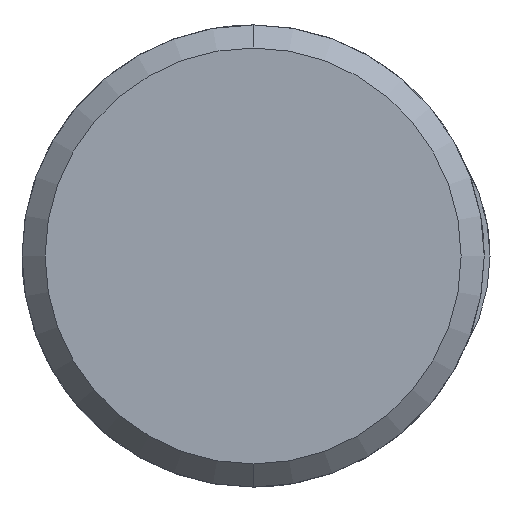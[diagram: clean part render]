
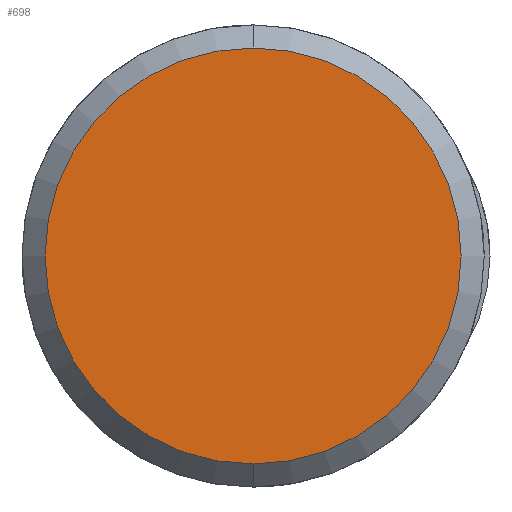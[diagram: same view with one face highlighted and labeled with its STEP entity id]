
A CAD part, left-side view. The second image highlights one B-rep face of the part: STEP entity #698.
In plain terms, the highlighted planar face has unit normal (-1, 0, 0).
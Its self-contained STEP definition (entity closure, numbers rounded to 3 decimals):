
#630=CARTESIAN_POINT('Vertex',(0.,0.,-36.)) ;
#633=CARTESIAN_POINT('Axis2P3D Location',(0.,0.,0.)) ;
#637=CARTESIAN_POINT('Vertex',(0.,36.,0.)) ;
#640=CARTESIAN_POINT('Axis2P3D Location',(0.,0.,0.)) ;
#644=CARTESIAN_POINT('Vertex',(0.,0.,36.)) ;
#666=CARTESIAN_POINT('Axis2P3D Location',(0.,0.,0.)) ;
#670=CARTESIAN_POINT('Vertex',(0.,-36.,0.)) ;
#673=CARTESIAN_POINT('Axis2P3D Location',(0.,0.,0.)) ;
#687=CARTESIAN_POINT('Axis2P3D Location',(0.,0.,0.)) ;
#634=DIRECTION('Axis2P3D Direction',(1.,0.,-0.)) ;
#641=DIRECTION('Axis2P3D Direction',(1.,0.,-0.)) ;
#667=DIRECTION('Axis2P3D Direction',(1.,0.,-0.)) ;
#674=DIRECTION('Axis2P3D Direction',(1.,0.,-0.)) ;
#688=DIRECTION('Axis2P3D Direction',(1.,0.,-0.)) ;
#689=DIRECTION('Axis2P3D XDirection',(-0.,0.,-1.)) ;
#635=AXIS2_PLACEMENT_3D('Circle Axis2P3D',#633,#634,$) ;
#642=AXIS2_PLACEMENT_3D('Circle Axis2P3D',#640,#641,$) ;
#668=AXIS2_PLACEMENT_3D('Circle Axis2P3D',#666,#667,$) ;
#675=AXIS2_PLACEMENT_3D('Circle Axis2P3D',#673,#674,$) ;
#690=AXIS2_PLACEMENT_3D('Plane Axis2P3D',#687,#688,#689) ;
#693=ORIENTED_EDGE('',*,*,#639,.F.) ;
#694=ORIENTED_EDGE('',*,*,#677,.F.) ;
#695=ORIENTED_EDGE('',*,*,#672,.F.) ;
#696=ORIENTED_EDGE('',*,*,#646,.F.) ;
#698=ADVANCED_FACE('395C-063-265/1',(#697),#691,.F.) ;
#636=CIRCLE('generated circle',#635,36.) ;
#643=CIRCLE('generated circle',#642,36.) ;
#669=CIRCLE('generated circle',#668,36.) ;
#676=CIRCLE('generated circle',#675,36.) ;
#639=EDGE_CURVE('',#631,#638,#636,.T.) ;
#646=EDGE_CURVE('',#638,#645,#643,.T.) ;
#672=EDGE_CURVE('',#645,#671,#669,.T.) ;
#677=EDGE_CURVE('',#671,#631,#676,.T.) ;
#692=EDGE_LOOP('',(#693,#694,#695,#696)) ;
#697=FACE_OUTER_BOUND('',#692,.T.) ;
#691=PLANE('Plane',#690) ;
#631=VERTEX_POINT('',#630) ;
#638=VERTEX_POINT('',#637) ;
#645=VERTEX_POINT('',#644) ;
#671=VERTEX_POINT('',#670) ;
